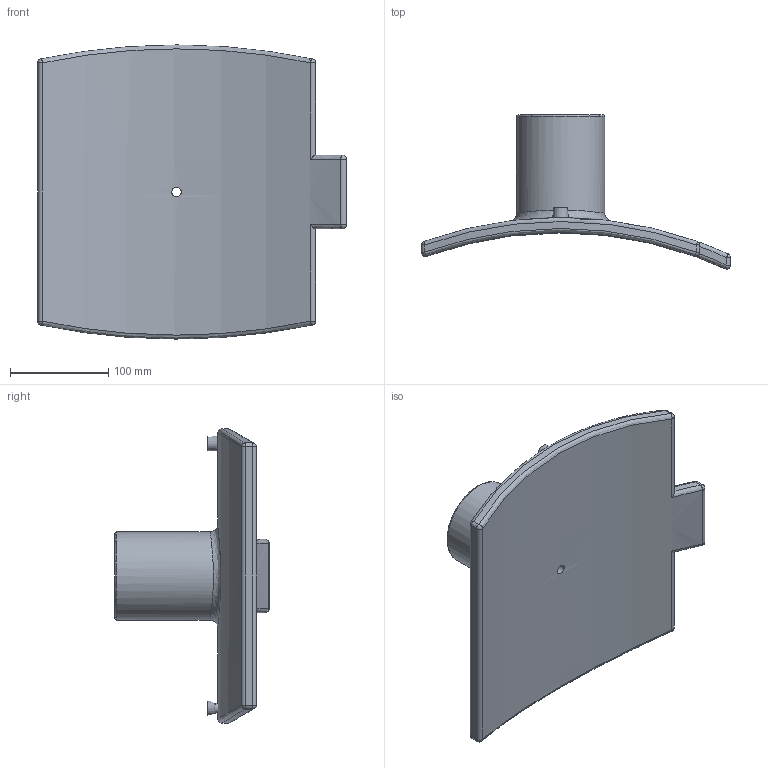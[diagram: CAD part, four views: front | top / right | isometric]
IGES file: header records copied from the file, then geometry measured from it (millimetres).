
Global section: file name: 495804710090T.ipt; native system: Autodesk Inventor 2015; preprocessor: unknown; author: KIM; date: 20171106.094343; units: millimetre
Bounding box: 315 x 157.15 x 300 mm (x, y, z)
Volume: 1543788.7 mm3; surface area: 247859 mm2
Topology: 2 solids, 2 shells, 66 faces, 132 edges, 78 vertices
Faces by surface type: cylinder 22, plane 14, sphere 12, revolution 11, bspline 5, cone 2
Full cylindrical faces by diameter (mm): 4 x2, 16 x1, 90 x1
